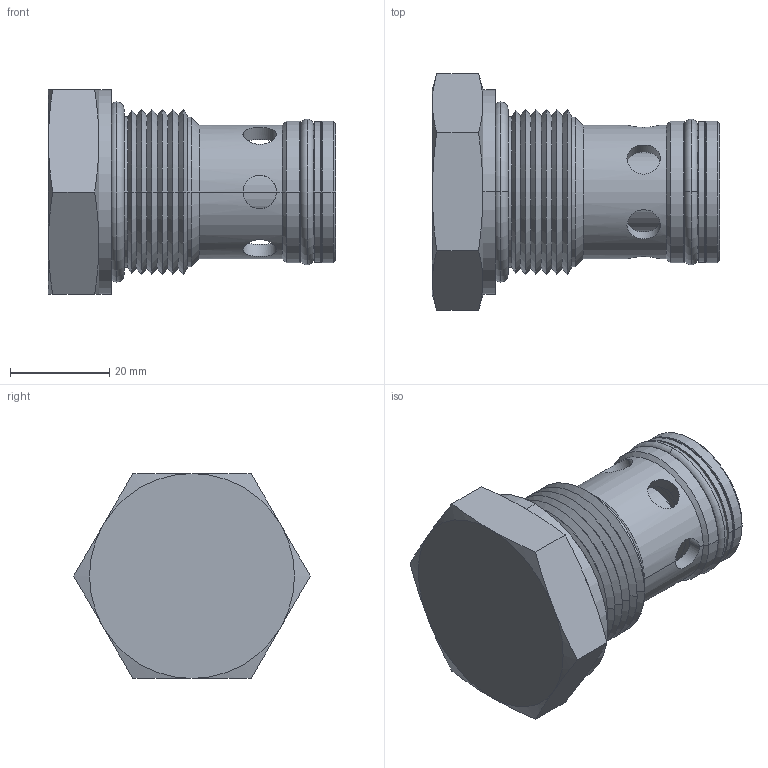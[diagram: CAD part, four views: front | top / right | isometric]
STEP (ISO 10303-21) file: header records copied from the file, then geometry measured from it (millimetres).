
FILE_DESCRIPTION((''),'2;1');
FILE_NAME('U:\Solid model CD\Solid model full\Mechanical\STEP\SJCVA00-3D Full.stp','2008-07-29T09:56:22',('Dan'),(''),'Autodesk Inventor 9','Autodesk Inventor 9','');
FILE_SCHEMA(('AUTOMOTIVE_DESIGN { 1 0 10303 214 1 1 1 1 }'));
Length unit declared in the file: inch
Products named in the file (5): SJCVA00-3D Full; SJCVA00-3D Full1; SJCVA00-3D Full2; SJCVA00-3D Full3; SJCVA00-3D Full4
Assembly tree (4 placements, depth 2):
  SJCVA00-3D Full
    SJCVA00-3D Full1
    SJCVA00-3D Full2
    SJCVA00-3D Full3
    SJCVA00-3D Full4
Bounding box: 57.84 x 47.66 x 41.27 mm (x, y, z)
Volume: 44910.4 mm3; surface area: 14029.9 mm2
Topology: 4 solids, 4 shells, 138 faces, 344 edges, 207 vertices
Faces by surface type: cone 50, cylinder 48, plane 20, torus 12, bspline 8
Entity records: 5213 total; most frequent: CARTESIAN_POINT 1865, DIRECTION 703, ORIENTED_EDGE 684, EDGE_CURVE 342, AXIS2_PLACEMENT_3D 307, VERTEX_POINT 207, CIRCLE 168, EDGE_LOOP 153
